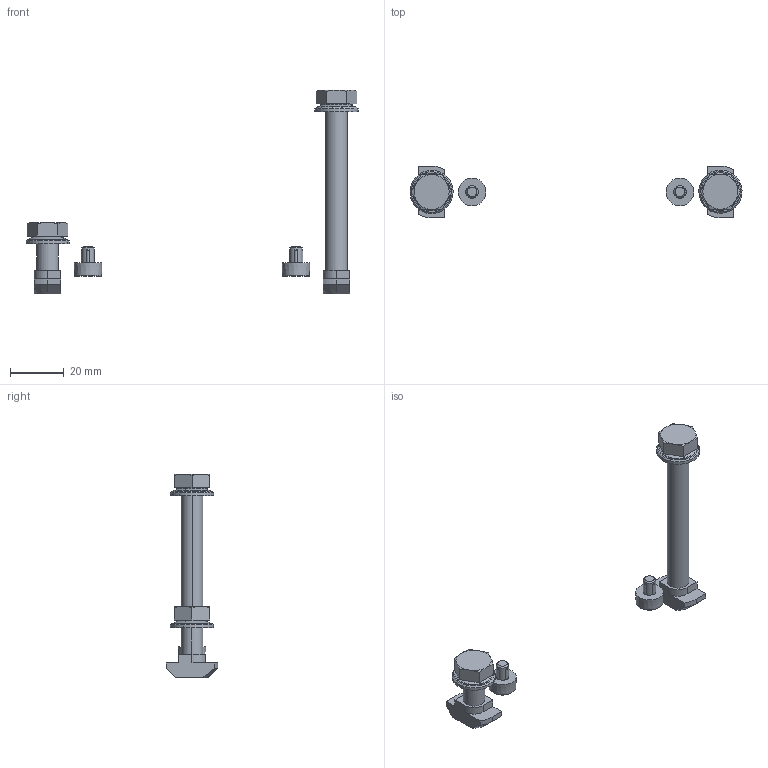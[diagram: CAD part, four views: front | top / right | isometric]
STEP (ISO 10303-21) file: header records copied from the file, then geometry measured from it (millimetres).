
FILE_DESCRIPTION (( 'STEP AP203' ), '1' );
FILE_NAME ('75000025.STEP', '2016-11-22T07:11:41', ( '' ), ( '' ), 'SwSTEP 2.0', 'SolidWorks 2015', '' );
FILE_SCHEMA (( 'CONFIG_CONTROL_DESIGN' ));
Length unit declared in the file: millimetre
Products named in the file (1): 75000025
Bounding box: 122.98 x 19.2 x 75.4 mm (x, y, z)
Volume: 8646.8 mm3; surface area: 6671.5 mm2
Topology: 4 solids, 4 shells, 175 faces, 410 edges, 256 vertices
Faces by surface type: cylinder 59, plane 58, cone 42, sphere 12, torus 4
Entity records: 5523 total; most frequent: CARTESIAN_POINT 1429, DIRECTION 872, ORIENTED_EDGE 804, EDGE_CURVE 402, AXIS2_PLACEMENT_3D 347, VERTEX_POINT 252, EDGE_LOOP 200, VECTOR 178
